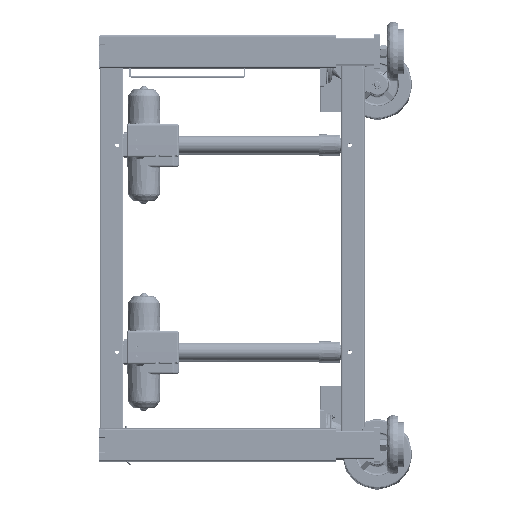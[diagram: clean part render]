
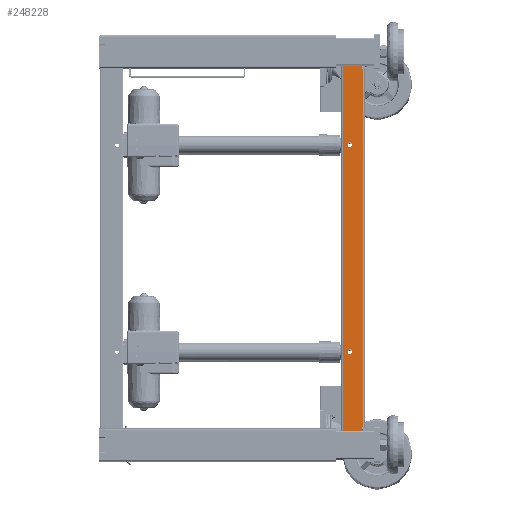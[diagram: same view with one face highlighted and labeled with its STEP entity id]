
A CAD part, top view. The second image highlights one B-rep face of the part: STEP entity #248228.
In plain terms, the highlighted planar face has unit normal (0, 0, 1).
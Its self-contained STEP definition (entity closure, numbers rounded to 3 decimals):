
#27650 = DIRECTION ( 'NONE',  ( 0., -1., 0. ) ) ;
#31594 = DIRECTION ( 'NONE',  ( 0., 0., -1. ) ) ;
#42979 = DIRECTION ( 'NONE',  ( 1., 0., 0. ) ) ;
#47877 = VERTEX_POINT ( 'NONE', #462838 ) ;
#49587 = ORIENTED_EDGE ( 'NONE', *, *, #617470, .T. ) ;
#59696 = CARTESIAN_POINT ( 'NONE',  ( 357.948, 1102.6, 1935.314 ) ) ;
#60352 = CARTESIAN_POINT ( 'NONE',  ( 405.573, 326.2, 1935.314 ) ) ;
#65930 = DIRECTION ( 'NONE',  ( -1., 0., 0. ) ) ;
#68376 = CARTESIAN_POINT ( 'NONE',  ( 357.948, 318.2, 1935.314 ) ) ;
#78940 = ORIENTED_EDGE ( 'NONE', *, *, #564566, .T. ) ;
#84187 = AXIS2_PLACEMENT_3D ( 'NONE', #463469, #31594, #312356 ) ;
#92414 = CARTESIAN_POINT ( 'NONE',  ( 402.398, 326.2, 1935.314 ) ) ;
#92676 = EDGE_LOOP ( 'NONE', ( #78940 ) ) ;
#106397 = VERTEX_POINT ( 'NONE', #343959 ) ;
#106416 = VERTEX_POINT ( 'NONE', #532120 ) ;
#107825 = LINE ( 'NONE', #445107, #566723 ) ;
#110695 = VERTEX_POINT ( 'NONE', #588576 ) ;
#111243 = VECTOR ( 'NONE', #65930, 1000. ) ;
#121795 = DIRECTION ( 'NONE',  ( -1., 0., 0. ) ) ;
#124025 = VECTOR ( 'NONE', #574786, 1000. ) ;
#126443 = EDGE_CURVE ( 'NONE', #459724, #256793, #506417, .T. ) ;
#131379 = CARTESIAN_POINT ( 'NONE',  ( 357.948, 318.2, 1935.314 ) ) ;
#145818 = ORIENTED_EDGE ( 'NONE', *, *, #357700, .F. ) ;
#151979 = CARTESIAN_POINT ( 'NONE',  ( 405.573, 1094.6, 1935.314 ) ) ;
#155205 = ORIENTED_EDGE ( 'NONE', *, *, #282813, .T. ) ;
#173930 = CARTESIAN_POINT ( 'NONE',  ( 357.948, 318.2, 1935.314 ) ) ;
#196424 = VECTOR ( 'NONE', #495348, 1000. ) ;
#216924 = CARTESIAN_POINT ( 'NONE',  ( 373.773, 488.2, 1935.314 ) ) ;
#218095 = VERTEX_POINT ( 'NONE', #363045 ) ;
#222325 = VECTOR ( 'NONE', #121795, 1000. ) ;
#223468 = ORIENTED_EDGE ( 'NONE', *, *, #444503, .T. ) ;
#228555 = ORIENTED_EDGE ( 'NONE', *, *, #126443, .F. ) ;
#234373 = LINE ( 'NONE', #385554, #567167 ) ;
#237334 = DIRECTION ( 'NONE',  ( -1., 0., 0. ) ) ;
#247430 = ORIENTED_EDGE ( 'NONE', *, *, #513546, .T. ) ;
#248228 = ADVANCED_FACE ( 'NONE', ( #364764, #553905, #456210 ), #367893, .F. ) ;
#256793 = VERTEX_POINT ( 'NONE', #600495 ) ;
#269423 = CARTESIAN_POINT ( 'NONE',  ( 402.398, 1094.6, 1935.314 ) ) ;
#271256 = AXIS2_PLACEMENT_3D ( 'NONE', #216924, #601328, #27650 ) ;
#275864 = CARTESIAN_POINT ( 'NONE',  ( 400.573, 318.2, 1935.314 ) ) ;
#282813 = EDGE_CURVE ( 'NONE', #447929, #110695, #338120, .T. ) ;
#288705 = EDGE_CURVE ( 'NONE', #612725, #106397, #296256, .T. ) ;
#296256 = LINE ( 'NONE', #59696, #111243 ) ;
#300215 = DIRECTION ( 'NONE',  ( 0., 1., 0. ) ) ;
#312356 = DIRECTION ( 'NONE',  ( 0., 1., 0. ) ) ;
#329945 = DIRECTION ( 'NONE',  ( 0., 0., -1. ) ) ;
#338120 = LINE ( 'NONE', #151979, #417509 ) ;
#343959 = CARTESIAN_POINT ( 'NONE',  ( 357.948, 1102.6, 1935.314 ) ) ;
#357700 = EDGE_CURVE ( 'NONE', #256793, #106397, #413488, .T. ) ;
#363045 = CARTESIAN_POINT ( 'NONE',  ( 373.773, 937.75, 1935.314 ) ) ;
#364764 = FACE_BOUND ( 'NONE', #92676, .T. ) ;
#366213 = DIRECTION ( 'NONE',  ( 0., 1., 0. ) ) ;
#367893 = PLANE ( 'NONE',  #557710 ) ;
#379857 = LINE ( 'NONE', #60352, #196424 ) ;
#382592 = CARTESIAN_POINT ( 'NONE',  ( 402.398, 318.2, 1935.314 ) ) ;
#385554 = CARTESIAN_POINT ( 'NONE',  ( 400.573, 318.2, 1935.314 ) ) ;
#396542 = VECTOR ( 'NONE', #366213, 1000. ) ;
#400070 = ORIENTED_EDGE ( 'NONE', *, *, #422306, .T. ) ;
#413488 = LINE ( 'NONE', #173930, #396542 ) ;
#417509 = VECTOR ( 'NONE', #237334, 1000. ) ;
#422306 = EDGE_CURVE ( 'NONE', #110695, #612725, #107825, .T. ) ;
#436382 = ORIENTED_EDGE ( 'NONE', *, *, #470449, .T. ) ;
#439109 = LINE ( 'NONE', #382592, #124025 ) ;
#442082 = CIRCLE ( 'NONE', #271256, 5.15 ) ;
#444503 = EDGE_CURVE ( 'NONE', #464379, #447929, #439109, .T. ) ;
#445107 = CARTESIAN_POINT ( 'NONE',  ( 400.573, 1102.6, 1935.314 ) ) ;
#447929 = VERTEX_POINT ( 'NONE', #269423 ) ;
#448265 = EDGE_LOOP ( 'NONE', ( #49587, #247430, #223468, #155205, #400070, #535839, #145818, #228555 ) ) ;
#456210 = FACE_OUTER_BOUND ( 'NONE', #448265, .T. ) ;
#459724 = VERTEX_POINT ( 'NONE', #275864 ) ;
#462838 = CARTESIAN_POINT ( 'NONE',  ( 400.573, 326.2, 1935.314 ) ) ;
#463469 = CARTESIAN_POINT ( 'NONE',  ( 373.773, 932.6, 1935.314 ) ) ;
#464379 = VERTEX_POINT ( 'NONE', #92414 ) ;
#470449 = EDGE_CURVE ( 'NONE', #218095, #218095, #486937, .T. ) ;
#486937 = CIRCLE ( 'NONE', #84187, 5.15 ) ;
#495348 = DIRECTION ( 'NONE',  ( 1., 0., 0. ) ) ;
#506417 = LINE ( 'NONE', #68376, #222325 ) ;
#513546 = EDGE_CURVE ( 'NONE', #47877, #464379, #379857, .T. ) ;
#532120 = CARTESIAN_POINT ( 'NONE',  ( 373.773, 483.05, 1935.314 ) ) ;
#535839 = ORIENTED_EDGE ( 'NONE', *, *, #288705, .T. ) ;
#536646 = DIRECTION ( 'NONE',  ( 0., 1., 0. ) ) ;
#542503 = CARTESIAN_POINT ( 'NONE',  ( 400.573, 1102.6, 1935.314 ) ) ;
#553905 = FACE_BOUND ( 'NONE', #581245, .T. ) ;
#557710 = AXIS2_PLACEMENT_3D ( 'NONE', #131379, #329945, #42979 ) ;
#564566 = EDGE_CURVE ( 'NONE', #106416, #106416, #442082, .T. ) ;
#566723 = VECTOR ( 'NONE', #300215, 1000. ) ;
#567167 = VECTOR ( 'NONE', #536646, 1000. ) ;
#574786 = DIRECTION ( 'NONE',  ( 0., 1., 0. ) ) ;
#581245 = EDGE_LOOP ( 'NONE', ( #436382 ) ) ;
#588576 = CARTESIAN_POINT ( 'NONE',  ( 400.573, 1094.6, 1935.314 ) ) ;
#600495 = CARTESIAN_POINT ( 'NONE',  ( 357.948, 318.2, 1935.314 ) ) ;
#601328 = DIRECTION ( 'NONE',  ( 0., 0., -1. ) ) ;
#612725 = VERTEX_POINT ( 'NONE', #542503 ) ;
#617470 = EDGE_CURVE ( 'NONE', #459724, #47877, #234373, .T. ) ;
